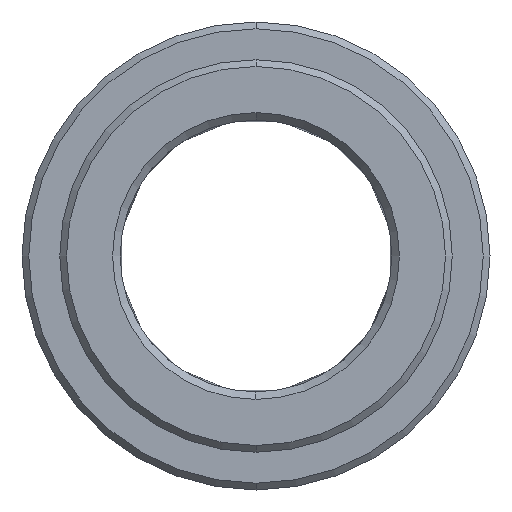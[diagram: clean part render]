
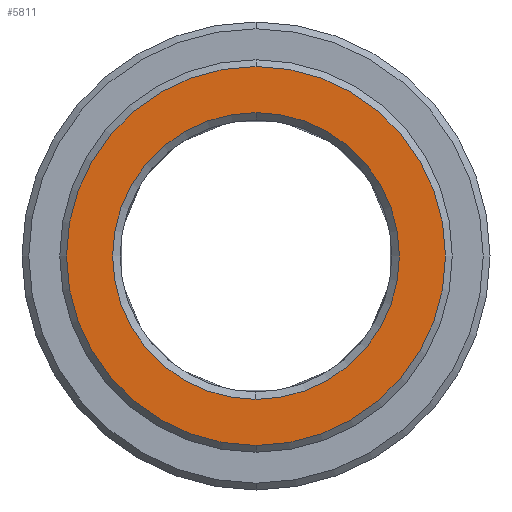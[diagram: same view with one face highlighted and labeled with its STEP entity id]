
A CAD part, left-side view. The second image highlights one B-rep face of the part: STEP entity #5811.
In plain terms, the highlighted planar face has unit normal (-1, 0, 0).
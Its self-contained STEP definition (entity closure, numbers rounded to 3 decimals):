
#3682=CARTESIAN_POINT('',(-8.,0.,
0.));
#3683=DIRECTION('',(1.,0.,0.));
#3684=DIRECTION('',(0.,0.,1.));
#3685=AXIS2_PLACEMENT_3D('',#3682,#3683,#3684);
#3687=CARTESIAN_POINT('',(-8.,0.,0.));
#3688=DIRECTION('',(1.,0.,0.));
#3689=DIRECTION('',(0.,0.,-1.));
#3690=AXIS2_PLACEMENT_3D('',#3687,#3688,#3689);
#3692=CARTESIAN_POINT('',(-8.,0.,0.));
#3693=DIRECTION('',(1.,0.,0.));
#3694=DIRECTION('',(0.,0.,-1.));
#3695=AXIS2_PLACEMENT_3D('',#3692,#3693,#3694);
#3697=CARTESIAN_POINT('',(-8.,0.,
0.));
#3698=DIRECTION('',(1.,0.,0.));
#3699=DIRECTION('',(0.,0.,1.));
#3700=AXIS2_PLACEMENT_3D('',#3697,#3698,#3699);
#3968=CARTESIAN_POINT('',(-8.,0.,-9.5));
#3969=CARTESIAN_POINT('',(-8.,0.,9.5));
#3970=VERTEX_POINT('',#3968);
#3971=VERTEX_POINT('',#3969);
#3976=CARTESIAN_POINT('',(-8.,0.,12.55));
#3977=CARTESIAN_POINT('',(-8.,0.,-12.55));
#3978=VERTEX_POINT('',#3976);
#3979=VERTEX_POINT('',#3977);
#5796=CARTESIAN_POINT('',(-8.,0.,0.));
#5797=DIRECTION('',(1.,0.,0.));
#5798=DIRECTION('',(0.,0.,1.));
#5799=AXIS2_PLACEMENT_3D('',#5796,#5797,#5798);
#5800=PLANE('',#5799);
#5801=ORIENTED_EDGE('',*,*,#5763,.T.);
#5802=ORIENTED_EDGE('',*,*,#5778,.T.);
#5803=EDGE_LOOP('',(#5801,#5802));
#5804=FACE_OUTER_BOUND('',#5803,.F.);
#5806=ORIENTED_EDGE('',*,*,#5805,.F.);
#5808=ORIENTED_EDGE('',*,*,#5807,.F.);
#5809=EDGE_LOOP('',(#5806,#5808));
#5810=FACE_BOUND('',#5809,.F.);
#5811=ADVANCED_FACE('',(#5804,#5810),#5800,.F.);
#3686=CIRCLE('',#3685,12.55);
#3691=CIRCLE('',#3690,12.55);
#3696=CIRCLE('',#3695,9.5);
#3701=CIRCLE('',#3700,9.5);
#5763=EDGE_CURVE('',#3978,#3979,#3686,.T.);
#5778=EDGE_CURVE('',#3979,#3978,#3691,.T.);
#5805=EDGE_CURVE('',#3970,#3971,#3696,.T.);
#5807=EDGE_CURVE('',#3971,#3970,#3701,.T.);
